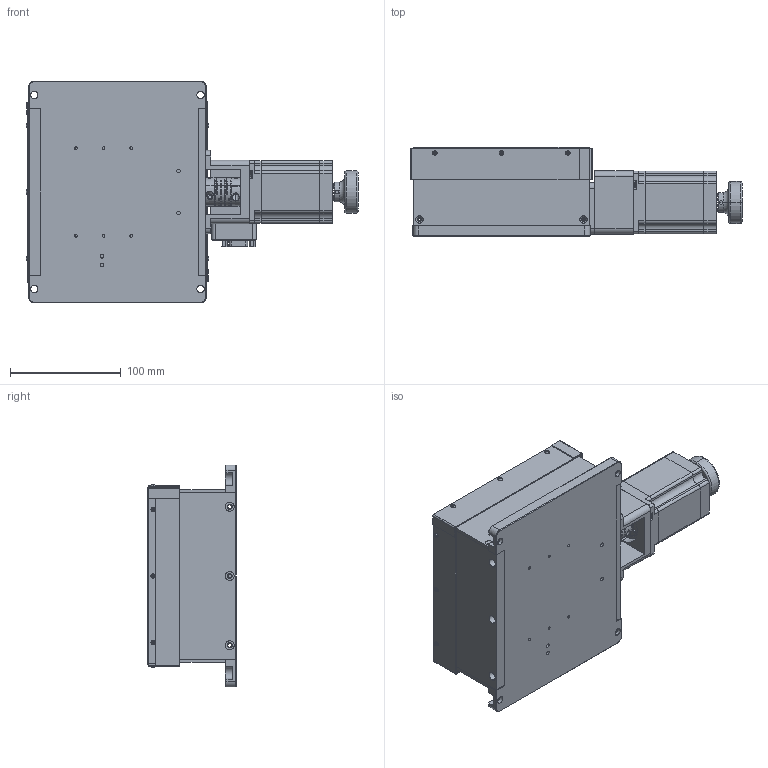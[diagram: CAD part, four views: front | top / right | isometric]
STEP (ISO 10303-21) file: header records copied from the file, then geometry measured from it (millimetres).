
FILE_DESCRIPTION (( 'STEP AP203' ), '1' );
FILE_NAME ('PT-GD425-16012-0 萇雄虼倛汔蔥怢.STEP', '2025-08-05T02:05:43', ( '' ), ( '' ), 'SwSTEP 2.0', 'SolidWorks 2016', '' );
FILE_SCHEMA (( 'CONFIG_CONTROL_DESIGN' ));
Length unit declared in the file: millimetre
Products named in the file (1): PT-GD425-16012-0 萇雄虼倛汔蔥怢
Bounding box: 299.5 x 80 x 200 mm (x, y, z)
Surface area: 246774.3 mm2 (no closed solid volume)
Topology: 0 solids, 53 shells, 791 faces, 3508 edges, 2759 vertices
Faces by surface type: plane 362, cylinder 331, cone 36, sphere 28, bspline 22, torus 12
Entity records: 39839 total; most frequent: CARTESIAN_POINT 11704, DIRECTION 5708, ORIENTED_EDGE 5045, EDGE_CURVE 3508, VERTEX_POINT 2759, AXIS2_PLACEMENT_3D 1994, VECTOR 1720, LINE 1720
